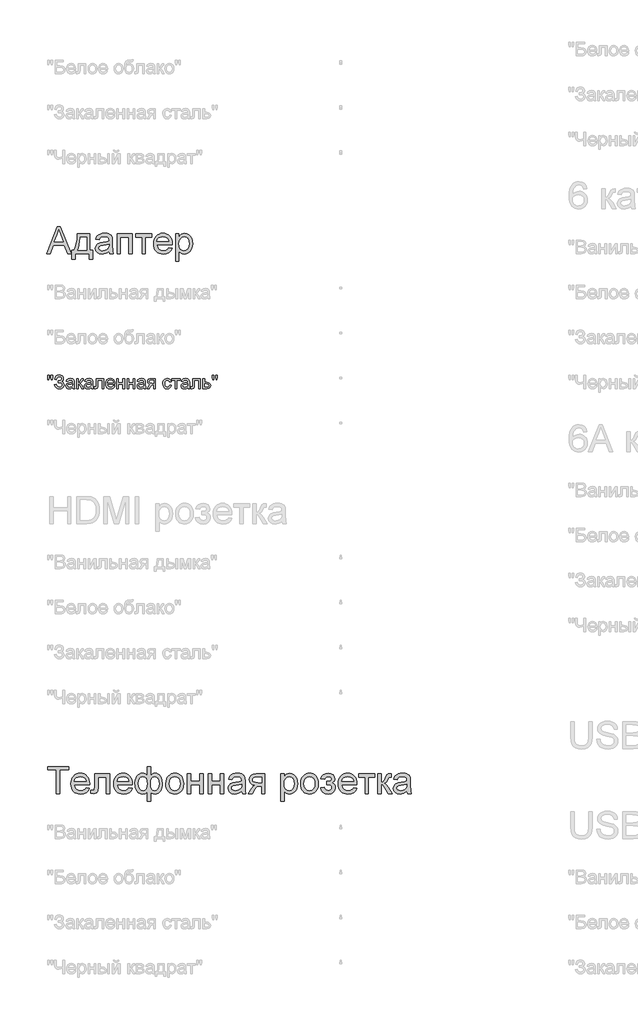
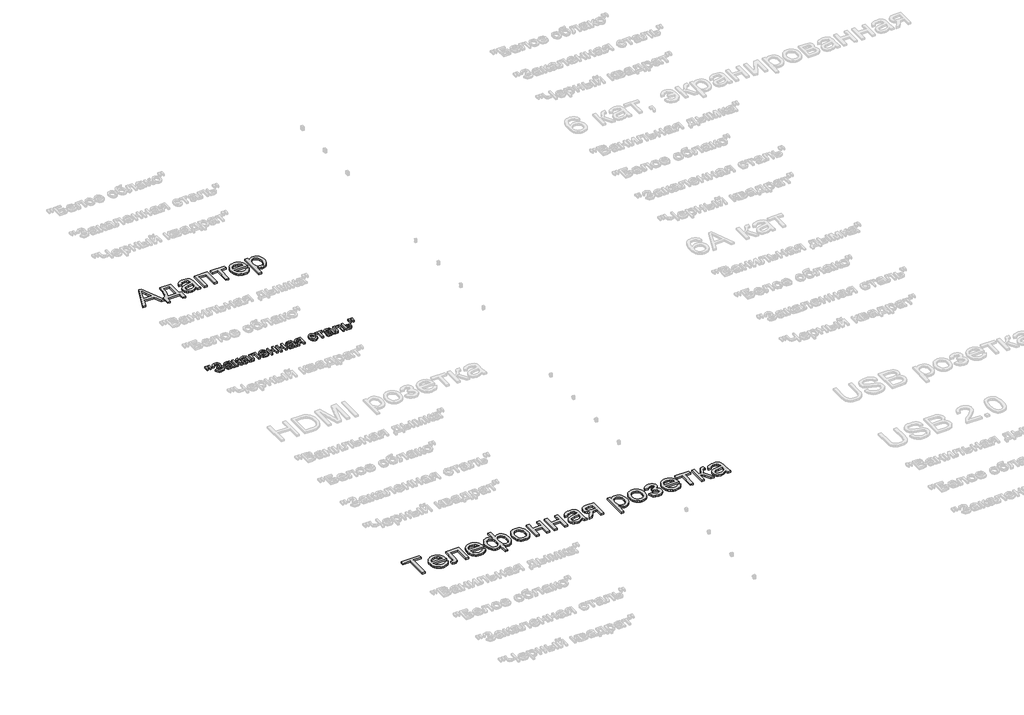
# One storey, part 58 of 168: 3 proxies.
"""IFC4 building model written with IfcOpenShell, lengths in millimetres."""

from ifc_helpers import new_model, si_unit, origin, origin_with_axes, place, context, project, spatial, polyline, outline, extrude, element, save

model = new_model("IFC4")

# Units and contexts
model_context = context("Model", 3, world=origin())
ifc_project = project(units=[si_unit("LENGTHUNIT", "METRE", prefix="MILLI")], contexts=[model_context])

# Site, building, storey
site = spatial("IfcSite", under=ifc_project)
building = spatial("IfcBuilding", under=site)
storey = spatial("IfcBuildingStorey", under=building, Name="Этаж 01", Elevation=0.0)

# Proxies
placement = place(None, origin())
element("IfcBuildingElementProxy", 1, Name="300 мм Arial 2", ObjectType="300 мм Arial 2", at=placement, inside=storey, context=model_context, shape_type="SweptSolid", body=[
    extrude(outline(polyline([(54373.6272543, -40566.8622977), (54493.9246668, -40265.4933673), (54526.0039767, -40265.4933673), (54646.3013892, -40566.8622977), (54606.4965573, -40566.8622977), (54571.9892261, -40472.684507), (54447.865841, -40472.684507), (54413.4320862, -40566.8622977), (54373.6272543, -40566.8622977)]), holes=[polyline([(54461.698204, -40435.0133907), (54558.2304395, -40435.0133907), (54531.0807483, -40360.9219568), (54509.9643218, -40303.1644836), (54491.20234, -40354.4472337), (54461.698204, -40435.0133907)])]), origin_with_axes(), (0.0, 0.0, 1.0), 20.0),
    extrude(outline(polyline([(54714.8010167, -40345.5444894), (54856.0677028, -40345.5444894), (54856.0677028, -40529.1911814), (54884.32104, -40529.1911814), (54884.32104, -40628.0778617), (54846.6499237, -40628.0778617), (54846.6499237, -40566.8622977), (54691.256569, -40566.8622977), (54691.256569, -40628.0778617), (54653.5854527, -40628.0778617), (54653.5854527, -40529.1911814), (54677.1299004, -40529.1911814), (54694.2456102, -40498.2615027), (54706.2293662, -40457.3438278), (54713.0811683, -40406.4381567), (54714.8010167, -40345.5444894)]), holes=[polyline([(54747.7632434, -40383.2156057), (54744.6730347, -40429.3388109), (54738.9340756, -40469.0424752), (54730.5463661, -40502.3265987), (54719.5099062, -40529.1911814), (54818.3965865, -40529.1911814), (54818.3965865, -40383.2156057), (54747.7632434, -40383.2156057)])]), origin_with_axes(), (0.0, 0.0, 1.0), 20.0),
    extrude(outline(polyline([(55067.967732, -40538.6089605), (55049.9691054, -40554.0416102), (55031.4370499, -40564.139971), (55011.9485012, -40569.7133832), (54991.080395, -40571.5711873), (54959.5988933, -40567.101421), (54936.3763424, -40553.6921223), (54922.0565357, -40533.3298539), (54917.2832668, -40508.0011785), (54919.0858886, -40492.3845878), (54924.4937539, -40478.2027369), (54932.8354782, -40466.0626311), (54943.4396767, -40456.5712756), (54969.8168157, -40444.2104405), (55002.4111605, -40438.5450578), (55040.9284054, -40432.5853695), (55067.7470028, -40425.5956116), (55067.967732, -40417.2079021), (55065.374164, -40400.3956949), (55057.5934598, -40389.3960233), (55040.1926414, -40381.229043), (55015.9492179, -40378.5067162), (54993.5084162, -40380.318535), (54977.8366432, -40385.7539915), (54967.1496713, -40395.806367), (54959.6632727, -40411.468943), (54921.9921564, -40406.7600534), (54928.5312588, -40386.1586617), (54938.2893287, -40369.9718539), (54952.1768741, -40357.5926248), (54971.1044027, -40348.413969), (54994.2533773, -40342.7301922), (55020.8052603, -40340.8355999), (55046.2718914, -40342.509463), (55066.4594159, -40347.5310522), (55081.6805334, -40355.0818302), (55092.2479437, -40364.3432594), (55099.2560957, -40375.7935865), (55103.7994384, -40389.9110581), (55105.6388483, -40422.8732848), (55105.6388483, -40469.741451), (55107.5518347, -40535.1876579), (55115.0566274, -40566.8622977), (55077.3855111, -40566.8622977), (55067.967732, -40538.6089605)]), holes=[polyline([(55067.967732, -40463.2667279), (55007.1936264, -40474.8182225), (54974.7832227, -40480.9250637), (54960.1047311, -40490.8578775), (54954.9543831, -40505.3524281), (54957.7594833, -40516.5544349), (54966.174784, -40525.7330907), (54980.016344, -40531.8583259), (54999.1002225, -40533.900071), (55019.3337323, -40531.6467937), (55037.2127972, -40524.8869621), (55051.7073479, -40514.9265571), (55061.7873145, -40503.0715598), (55066.2570808, -40490.8578775), (55067.7470028, -40473.9353058), (55067.967732, -40463.2667279)])]), origin_with_axes(), (0.0, 0.0, 1.0), 20.0),
    extrude(outline(polyline([(55157.4366333, -40345.5444894), (55326.9566566, -40345.5444894), (55326.9566566, -40566.8622977), (55289.2855403, -40566.8622977), (55289.2855403, -40383.2156057), (55195.1077496, -40383.2156057), (55195.1077496, -40566.8622977), (55157.4366333, -40566.8622977), (55157.4366333, -40345.5444894)])), origin_with_axes(), (0.0, 0.0, 1.0), 20.0),
    extrude(outline(polyline([(55364.6277729, -40345.5444894), (55543.5655754, -40345.5444894), (55543.5655754, -40383.2156057), (55472.9322323, -40383.2156057), (55472.9322323, -40566.8622977), (55435.261116, -40566.8622977), (55435.261116, -40383.2156057), (55364.6277729, -40383.2156057), (55364.6277729, -40345.5444894)])), origin_with_axes(), (0.0, 0.0, 1.0), 20.0),
    extrude(outline(polyline([(55731.4796985, -40500.9378442), (55768.4150509, -40505.6467337), (55755.1069197, -40533.4770067), (55733.8709315, -40554.2807335), (55705.1853329, -40567.2485738), (55669.5283705, -40571.5711873), (55646.1540683, -40569.7064854), (55625.3273488, -40564.1123798), (55607.0482122, -40554.7888705), (55591.3166584, -40541.7359575), (55578.6661163, -40525.3169242), (55569.6300148, -40505.8950541), (55564.2083539, -40483.4703472), (55562.4011336, -40458.0428036), (55564.226748, -40431.7530365), (55569.7035912, -40408.5810693), (55578.8316632, -40388.526902), (55591.610964, -40371.5905347), (55607.3011311, -40358.1352507), (55625.1618019, -40348.5243336), (55645.1929766, -40342.7577833), (55667.394655, -40340.8355999), (55688.8812628, -40342.7531848), (55708.3123299, -40348.5059395), (55725.6878564, -40358.093864), (55741.0078422, -40371.5169583), (55753.5135308, -40388.4165374), (55762.4461655, -40408.4339165), (55767.8057463, -40431.5690955), (55769.5922732, -40457.8220744), (55769.371544, -40467.9756174), (55600.0722499, -40467.9756174), (55606.5929582, -40496.1737724), (55621.7404994, -40516.9039228), (55643.6018869, -40529.6510339), (55670.2641345, -40533.900071), (55690.3137033, -40531.9319023), (55707.1994869, -40526.0273963), (55720.9214853, -40515.8186709), (55731.4796985, -40500.9378442)]), holes=[polyline([(55600.0722499, -40430.3045011), (55731.9211569, -40430.3045011), (55726.8259913, -40410.4020852), (55716.8379951, -40396.165052), (55694.87544, -40382.9213001), (55667.2475022, -40378.5067162), (55641.8544475, -40382.0291863), (55620.8575826, -40392.5965966), (55606.2618644, -40409.068513), (55600.0722499, -40430.3045011)])]), origin_with_axes(), (0.0, 0.0, 1.0), 20.0),
    extrude(outline(polyline([(55807.2633895, -40651.6223094), (55807.2633895, -40345.5444894), (55844.9345059, -40345.5444894), (55844.9345059, -40382.4798418), (55857.2217645, -40364.2604859), (55870.9805511, -40351.2466604), (55887.0202061, -40343.438365), (55906.1500698, -40340.8355999), (55931.625898, -40344.4776316), (55953.9011528, -40355.4037269), (55972.0377352, -40372.9516981), (55985.097546, -40396.4593576), (55992.9886148, -40424.2160541), (55995.6189711, -40454.5111364), (55992.648324, -40486.7284021), (55983.7363826, -40515.5427594), (55969.1682556, -40539.4918773), (55949.2290515, -40557.1134249), (55926.0065005, -40567.9567467), (55901.5883331, -40571.5711873), (55884.2702882, -40569.1523632), (55868.8100473, -40561.8958908), (55855.5754926, -40550.9422044), (55844.9345059, -40537.4317381), (55844.9345059, -40651.6223094), (55807.2633895, -40651.6223094)]), holes=[polyline([(55844.9345059, -40457.9692272), (55849.0087989, -40491.7407943), (55861.2316782, -40515.3588184), (55879.2670931, -40529.2647578), (55900.7789927, -40533.900071), (55922.6403803, -40529.0992109), (55941.1356476, -40514.6966308), (55953.744803, -40490.214084), (55957.9478548, -40455.173324), (55953.8459705, -40421.5856978), (55941.5403178, -40397.63658), (55923.5324941, -40383.2891821), (55902.3240971, -40378.5067162), (55881.0329266, -40383.5926848), (55862.3353242, -40398.8505905), (55849.2847104, -40423.8021869), (55844.9345059, -40457.9692272)])]), origin_with_axes(), (0.0, 0.0, 1.0), 20.0),
])
element("IfcBuildingElementProxy", 2, Name="300 мм Arial 2", ObjectType="300 мм Arial 2", at=placement, inside=storey, context=model_context, shape_type="SweptSolid", body=[
    extrude(outline(polyline([(54484.0654293, -46566.8622977), (54484.0654293, -46303.1644836), (54385.178749, -46303.1644836), (54385.178749, -46265.4933673), (54620.6232259, -46265.4933673), (54620.6232259, -46303.1644836), (54521.7365456, -46303.1644836), (54521.7365456, -46566.8622977), (54484.0654293, -46566.8622977)])), origin_with_axes(), (0.0, 0.0, 1.0), 20.0),
    extrude(outline(polyline([(54813.2462386, -46500.9378442), (54850.1815909, -46505.6467337), (54836.8734597, -46533.4770067), (54815.6374715, -46554.2807335), (54786.951873, -46567.2485738), (54751.2949106, -46571.5711873), (54727.9206083, -46569.7064854), (54707.0938889, -46564.1123798), (54688.8147522, -46554.7888705), (54673.0831984, -46541.7359575), (54660.4326563, -46525.3169242), (54651.3965548, -46505.8950541), (54645.9748939, -46483.4703472), (54644.1676736, -46458.0428036), (54645.993288, -46431.7530365), (54651.4701312, -46408.5810693), (54660.5982032, -46388.526902), (54673.377504, -46371.5905347), (54689.0676711, -46358.1352507), (54706.928342, -46348.5243336), (54726.9595166, -46342.7577833), (54749.161195, -46340.8355999), (54770.6478028, -46342.7531848), (54790.0788699, -46348.5059395), (54807.4543964, -46358.093864), (54822.7743823, -46371.5169583), (54835.2800708, -46388.4165374), (54844.2127055, -46408.4339165), (54849.5722863, -46431.5690955), (54851.3588133, -46457.8220744), (54851.1380841, -46467.9756174), (54681.8387899, -46467.9756174), (54688.3594983, -46496.1737724), (54703.5070394, -46516.9039228), (54725.368427, -46529.6510339), (54752.0306746, -46533.900071), (54772.0802433, -46531.9319023), (54788.9660269, -46526.0273963), (54802.6880253, -46515.8186709), (54813.2462386, -46500.9378442)]), holes=[polyline([(54681.8387899, -46430.3045011), (54813.687697, -46430.3045011), (54808.5925313, -46410.4020852), (54798.6045352, -46396.165052), (54776.6419801, -46382.9213001), (54749.0140422, -46378.5067162), (54723.6209875, -46382.0291863), (54702.6241226, -46392.5965966), (54688.0284045, -46409.068513), (54681.8387899, -46430.3045011)])]), origin_with_axes(), (0.0, 0.0, 1.0), 20.0),
    extrude(outline(polyline([(54907.8654877, -46345.5444894), (55077.3855111, -46345.5444894), (55077.3855111, -46566.6415685), (55039.7143948, -46566.6415685), (55039.7143948, -46383.2156057), (54945.536604, -46383.2156057), (54945.536604, -46488.7977384), (54942.9982183, -46537.5053145), (54938.2433435, -46548.5325773), (54929.0554907, -46558.069918), (54915.112763, -46564.6642028), (54896.0932639, -46566.8622977), (54865.4854819, -46564.9493114), (54865.4854819, -46529.1911814), (54882.3344773, -46529.1911814), (54899.3674136, -46526.8735249), (54906.1732306, -46519.515885), (54907.8654877, -46486.6640228), (54907.8654877, -46345.5444894)])), origin_with_axes(), (0.0, 0.0, 1.0), 20.0),
    extrude(outline(polyline([(55288.8440819, -46500.9378442), (55325.7794343, -46505.6467337), (55312.4713031, -46533.4770067), (55291.2353149, -46554.2807335), (55262.5497163, -46567.2485738), (55226.892754, -46571.5711873), (55203.5184517, -46569.7064854), (55182.6917322, -46564.1123798), (55164.4125956, -46554.7888705), (55148.6810418, -46541.7359575), (55136.0304997, -46525.3169242), (55126.9943982, -46505.8950541), (55121.5727373, -46483.4703472), (55119.765517, -46458.0428036), (55121.5911314, -46431.7530365), (55127.0679746, -46408.5810693), (55136.1960466, -46388.526902), (55148.9753474, -46371.5905347), (55164.6655145, -46358.1352507), (55182.5261853, -46348.5243336), (55202.55736, -46342.7577833), (55224.7590384, -46340.8355999), (55246.2456462, -46342.7531848), (55265.6767133, -46348.5059395), (55283.0522398, -46358.093864), (55298.3722256, -46371.5169583), (55310.8779142, -46388.4165374), (55319.8105489, -46408.4339165), (55325.1701297, -46431.5690955), (55326.9566566, -46457.8220744), (55326.7359274, -46467.9756174), (55157.4366333, -46467.9756174), (55163.9573416, -46496.1737724), (55179.1048828, -46516.9039228), (55200.9662703, -46529.6510339), (55227.6285179, -46533.900071), (55247.6780867, -46531.9319023), (55264.5638703, -46526.0273963), (55278.2858687, -46515.8186709), (55288.8440819, -46500.9378442)]), holes=[polyline([(55157.4366333, -46430.3045011), (55289.2855403, -46430.3045011), (55284.1903747, -46410.4020852), (55274.2023785, -46396.165052), (55252.2398234, -46382.9213001), (55224.6118856, -46378.5067162), (55199.2188309, -46382.0291863), (55178.221966, -46392.5965966), (55163.6262478, -46409.068513), (55157.4366333, -46430.3045011)])]), origin_with_axes(), (0.0, 0.0, 1.0), 20.0),
    extrude(outline(polyline([(55491.7677905, -46265.4933673), (55529.4389068, -46265.4933673), (55529.4389068, -46366.8080688), (55540.8708398, -46355.3761358), (55553.3880247, -46347.2735348), (55566.9352791, -46342.4450836), (55581.4574209, -46340.8355999), (55598.8973267, -46342.8819435), (55614.4288447, -46349.0209743), (55628.0519749, -46359.2526923), (55639.7667171, -46373.5770975), (55649.182197, -46391.005507), (55655.9075397, -46410.549238), (55661.2878139, -46455.9826644), (55659.8392785, -46480.6376559), (55655.4936724, -46502.8048453), (55648.2509957, -46522.4842328), (55638.1112482, -46539.6758183), (55625.819391, -46553.6300422), (55612.1203852, -46563.597345), (55597.0142308, -46569.5777267), (55580.5009277, -46571.5711873), (55557.4715148, -46567.8923673), (55544.6140391, -46561.0313681), (55529.4389068, -46547.8060104), (55529.4389068, -46651.6223094), (55491.7677905, -46651.6223094), (55491.7677905, -46547.8060104), (55467.708308, -46565.611499), (55439.2342416, -46571.5711873), (55422.9186751, -46569.6673979), (55407.6699664, -46563.95603), (55393.4881155, -46554.4370833), (55380.3731223, -46541.1105581), (55369.3642536, -46524.2385701), (55361.500776, -46504.0832353), (55356.7826894, -46480.6445536), (55355.2099939, -46453.9225252), (55360.9029677, -46409.7582917), (55368.0191851, -46390.5870412), (55377.9818894, -46373.3563683), (55390.3496222, -46359.1285321), (55404.6809252, -46348.965792), (55420.9757983, -46342.8681479), (55439.2342416, -46340.8355999), (55454.5841178, -46342.4450836), (55468.4072838, -46347.2735348), (55480.7773159, -46355.3761358), (55491.7677905, -46366.8080688), (55491.7677905, -46265.4933673)]), holes=[polyline([(55392.8811102, -46453.1131848), (55396.6519006, -46490.0669312), (55407.964272, -46514.9909364), (55424.8684497, -46529.1727873), (55445.4146591, -46533.900071), (55465.859701, -46529.2003785), (55480.4002368, -46515.101301), (55489.091449, -46491.6028386), (55491.9885197, -46458.7049912), (55488.9442962, -46423.6182459), (55479.8116256, -46398.5562849), (55464.5353258, -46383.5191084), (55443.0602143, -46378.5067162), (55422.900281, -46383.3995467), (55406.860626, -46398.0780383), (55396.3759891, -46421.622486), (55392.8811102, -46453.1131848)]), polyline([(55529.2181776, -46456.8655812), (55532.3543716, -46495.005747), (55541.7629536, -46518.1915098), (55555.8988193, -46529.9729307), (55573.2168642, -46533.900071), (55592.5766542, -46529.0716198), (55608.8646295, -46514.5862662), (55619.9286806, -46489.9289755), (55623.6166976, -46454.5847128), (55620.2137891, -46421.070663), (55610.0050637, -46397.3422744), (55594.4620494, -46383.2156057), (55575.0562742, -46378.5067162), (55555.0710848, -46383.4087438), (55540.732884, -46398.1148265), (55532.0968542, -46422.6065704), (55529.2181776, -46456.8655812)])]), origin_with_axes(), (0.0, 0.0, 1.0), 20.0),
    extrude(outline(polyline([(55698.9589302, -46456.2033936), (55700.9960767, -46427.5407876), (55707.1075164, -46402.8421102), (55717.2932491, -46382.1073612), (55731.5532749, -46365.3365408), (55745.9098698, -46354.6173791), (55761.7563867, -46346.9608351), (55779.0928258, -46342.3669087), (55797.9191869, -46340.8355999), (55818.7022203, -46342.7003018), (55837.4940925, -46348.2944073), (55854.2948034, -46357.6179167), (55869.1043529, -46370.6708297), (55881.1915757, -46387.0116881), (55889.8253063, -46406.1990334), (55895.0055447, -46428.2328656), (55896.7322908, -46453.1131848), (55893.6788702, -46491.1705772), (55884.5186085, -46520.1412843), (55869.5182202, -46541.837125), (55848.9444196, -46558.069918), (55824.5078581, -46568.19587), (55797.9191869, -46571.5711873), (55776.8326508, -46569.7133832), (55757.8660346, -46564.139971), (55741.0193385, -46554.8509506), (55726.2925624, -46541.8463221), (55714.3340983, -46525.3468146), (55705.7923382, -46505.5731573), (55700.6672822, -46482.5253503), (55698.9589302, -46456.2033936)]), holes=[polyline([(55736.6300465, -46456.1298172), (55740.9894481, -46490.2232811), (55754.067653, -46514.5126898), (55773.7493398, -46529.0532257), (55797.9191869, -46533.900071), (55821.9786694, -46529.0256345), (55841.6235679, -46514.4023252), (55854.7017728, -46489.7910197), (55859.0611745, -46454.9525948), (55854.6741817, -46421.8524123), (55841.5132033, -46397.8940973), (55821.8407136, -46383.3535615), (55797.9191869, -46378.5067162), (55773.7493398, -46383.3351674), (55754.067653, -46397.820521), (55740.9894481, -46422.0547474), (55736.6300465, -46456.1298172)])]), origin_with_axes(), (0.0, 0.0, 1.0), 20.0),
    extrude(outline(polyline([(55939.1122966, -46345.5444894), (55976.7834129, -46345.5444894), (55976.7834129, -46430.3045011), (56075.6700932, -46430.3045011), (56075.6700932, -46345.5444894), (56113.3412095, -46345.5444894), (56113.3412095, -46566.8622977), (56075.6700932, -46566.8622977), (56075.6700932, -46467.9756174), (55976.7834129, -46467.9756174), (55976.7834129, -46566.8622977), (55939.1122966, -46566.8622977), (55939.1122966, -46345.5444894)])), origin_with_axes(), (0.0, 0.0, 1.0), 20.0),
    extrude(outline(polyline([(56169.847884, -46345.5444894), (56207.5190003, -46345.5444894), (56207.5190003, -46430.3045011), (56306.4056806, -46430.3045011), (56306.4056806, -46345.5444894), (56344.0767969, -46345.5444894), (56344.0767969, -46566.8622977), (56306.4056806, -46566.8622977), (56306.4056806, -46467.9756174), (56207.5190003, -46467.9756174), (56207.5190003, -46566.8622977), (56169.847884, -46566.8622977), (56169.847884, -46345.5444894)])), origin_with_axes(), (0.0, 0.0, 1.0), 20.0),
    extrude(outline(polyline([(56541.8501575, -46538.6089605), (56523.8515309, -46554.0416102), (56505.3194754, -46564.139971), (56485.8309267, -46569.7133832), (56464.9628205, -46571.5711873), (56433.4813188, -46567.101421), (56410.2587678, -46553.6921223), (56395.9389612, -46533.3298539), (56391.1656923, -46508.0011785), (56392.9683141, -46492.3845878), (56398.3761794, -46478.2027369), (56406.7179036, -46466.0626311), (56417.3221021, -46456.5712756), (56443.6992412, -46444.2104405), (56476.293586, -46438.5450578), (56514.8108309, -46432.5853695), (56541.6294283, -46425.5956116), (56541.8501575, -46417.2079021), (56539.2565894, -46400.3956949), (56531.4758852, -46389.3960233), (56514.0750669, -46381.229043), (56489.8316434, -46378.5067162), (56467.3908417, -46380.318535), (56451.7190687, -46385.7539915), (56441.0320967, -46395.806367), (56433.5456981, -46411.468943), (56395.8745818, -46406.7600534), (56402.4136843, -46386.1586617), (56412.1717542, -46369.9718539), (56426.0592995, -46357.5926248), (56444.9868282, -46348.413969), (56468.1358027, -46342.7301922), (56494.6876857, -46340.8355999), (56520.1543168, -46342.509463), (56540.3418413, -46347.5310522), (56555.5629589, -46355.0818302), (56566.1303692, -46364.3432594), (56573.1385212, -46375.7935865), (56577.6818638, -46389.9110581), (56579.5212738, -46422.8732848), (56579.5212738, -46469.741451), (56581.4342602, -46535.1876579), (56588.9390529, -46566.8622977), (56551.2679366, -46566.8622977), (56541.8501575, -46538.6089605)]), holes=[polyline([(56541.8501575, -46463.2667279), (56481.0760519, -46474.8182225), (56448.6656481, -46480.9250637), (56433.9871565, -46490.8578775), (56428.8368086, -46505.3524281), (56431.6419088, -46516.5544349), (56440.0572094, -46525.7330907), (56453.8987695, -46531.8583259), (56472.982648, -46533.900071), (56493.2161578, -46531.6467937), (56511.0952227, -46524.8869621), (56525.5897733, -46514.9265571), (56535.66974, -46503.0715598), (56540.1395062, -46490.8578775), (56541.6294283, -46473.9353058), (56541.8501575, -46463.2667279)])]), origin_with_axes(), (0.0, 0.0, 1.0), 20.0),
    extrude(outline(polyline([(56800.8390821, -46345.5444894), (56800.8390821, -46566.8622977), (56763.1679658, -46566.8622977), (56763.1679658, -46482.102286), (56742.6401505, -46482.102286), (56714.6811188, -46486.884752), (56703.5159003, -46497.3142065), (56688.4143444, -46519.0376384), (56658.3951736, -46566.8622977), (56614.8379454, -46566.8622977), (56652.6562145, -46506.3824977), (56669.358057, -46484.67746), (56684.7355244, -46475.0389517), (56658.9837848, -46467.1478829), (56640.8839906, -46452.1566916), (56630.1786246, -46432.2174875), (56626.6101692, -46409.4823802), (56631.4846056, -46383.6938523), (56646.1079149, -46363.2764016), (56669.9650623, -46349.9774675), (56702.541013, -46345.5444894), (56800.8390821, -46345.5444894)]), holes=[polyline([(56763.1679658, -46383.2156057), (56713.5038965, -46383.2156057), (56687.8533243, -46385.3953066), (56673.2943944, -46391.934409), (56666.5345627, -46401.3981734), (56664.2812855, -46412.3518598), (56667.6014205, -46426.7084546), (56677.5618255, -46436.6688596), (56695.9651223, -46442.4905922), (56724.6139327, -46444.4311697), (56763.1679658, -46444.4311697), (56763.1679658, -46383.2156057)])]), origin_with_axes(), (0.0, 0.0, 1.0), 20.0),
    extrude(outline(polyline([(56975.067995, -46651.6223094), (56975.067995, -46345.5444894), (57012.7391113, -46345.5444894), (57012.7391113, -46382.4798418), (57025.02637, -46364.2604859), (57038.7851566, -46351.2466604), (57054.8248116, -46343.438365), (57073.9546753, -46340.8355999), (57099.4305035, -46344.4776316), (57121.7057583, -46355.4037269), (57139.8423407, -46372.9516981), (57152.9021515, -46396.4593576), (57160.7932203, -46424.2160541), (57163.4235766, -46454.5111364), (57160.4529295, -46486.7284021), (57151.5409881, -46515.5427594), (57136.9728611, -46539.4918773), (57117.033657, -46557.1134249), (57093.811106, -46567.9567467), (57069.3929386, -46571.5711873), (57052.0748937, -46569.1523632), (57036.6146528, -46561.8958908), (57023.380098, -46550.9422044), (57012.7391113, -46537.4317381), (57012.7391113, -46651.6223094), (56975.067995, -46651.6223094)]), holes=[polyline([(57012.7391113, -46457.9692272), (57016.8134044, -46491.7407943), (57029.0362837, -46515.3588184), (57047.0716985, -46529.2647578), (57068.5835982, -46533.900071), (57090.4449858, -46529.0992109), (57108.9402531, -46514.6966308), (57121.5494085, -46490.214084), (57125.7524603, -46455.173324), (57121.650576, -46421.5856978), (57109.3449233, -46397.63658), (57091.3370996, -46383.2891821), (57070.1287026, -46378.5067162), (57048.8375321, -46383.5926848), (57030.1399297, -46398.8505905), (57017.0893159, -46423.8021869), (57012.7391113, -46457.9692272)])]), origin_with_axes(), (0.0, 0.0, 1.0), 20.0),
    extrude(outline(polyline([(57196.3858033, -46456.2033936), (57198.4229499, -46427.5407876), (57204.5343895, -46402.8421102), (57214.7201223, -46382.1073612), (57228.9801481, -46365.3365408), (57243.336743, -46354.6173791), (57259.1832599, -46346.9608351), (57276.5196989, -46342.3669087), (57295.34606, -46340.8355999), (57316.1290935, -46342.7003018), (57334.9209657, -46348.2944073), (57351.7216765, -46357.6179167), (57366.5312261, -46370.6708297), (57378.6184489, -46387.0116881), (57387.2521795, -46406.1990334), (57392.4324178, -46428.2328656), (57394.1591639, -46453.1131848), (57391.1057434, -46491.1705772), (57381.9454817, -46520.1412843), (57366.9450933, -46541.837125), (57346.3712928, -46558.069918), (57321.9347312, -46568.19587), (57295.34606, -46571.5711873), (57274.2595239, -46569.7133832), (57255.2929078, -46564.139971), (57238.4462117, -46554.8509506), (57223.7194356, -46541.8463221), (57211.7609715, -46525.3468146), (57203.2192114, -46505.5731573), (57198.0941553, -46482.5253503), (57196.3858033, -46456.2033936)]), holes=[polyline([(57234.0569196, -46456.1298172), (57238.4163213, -46490.2232811), (57251.4945262, -46514.5126898), (57271.176213, -46529.0532257), (57295.34606, -46533.900071), (57319.4055425, -46529.0256345), (57339.0504411, -46514.4023252), (57352.128646, -46489.7910197), (57356.4880476, -46454.9525948), (57352.1010548, -46421.8524123), (57338.9400765, -46397.8940973), (57319.2675868, -46383.3535615), (57295.34606, -46378.5067162), (57271.176213, -46383.3351674), (57251.4945262, -46397.820521), (57238.4163213, -46422.0547474), (57234.0569196, -46456.1298172)])]), origin_with_axes(), (0.0, 0.0, 1.0), 20.0),
    extrude(outline(polyline([(57488.3369547, -46467.9756174), (57488.3369547, -46430.3045011), (57518.0618199, -46428.8329731), (57533.0714053, -46420.9970866), (57538.368906, -46413.6486438), (57540.1347396, -46404.6263379), (57537.7710978, -46393.9117748), (57530.6801723, -46385.6068387), (57519.8552446, -46380.2817468), (57506.2895961, -46378.5067162), (57492.5767947, -46380.2725498), (57481.0896794, -46385.5700505), (57471.8282502, -46394.3992184), (57464.792507, -46406.7600534), (57422.4125012, -46402.0511639), (57433.6512961, -46375.2693546), (57450.7394148, -46356.1394909), (57473.6768572, -46344.6615726), (57502.4636233, -46340.8355999), (57533.9543221, -46345.4985042), (57557.7930754, -46359.4872171), (57572.8026608, -46379.950653), (57577.8058559, -46404.0377267), (57576.0262268, -46416.3985617), (57570.6873393, -46427.4350216), (57561.7891936, -46437.1471062), (57549.3317895, -46445.5348157), (57563.8723254, -46456.0010585), (57574.2374006, -46469.005687), (57580.4454092, -46484.5854895), (57582.5147455, -46502.7772542), (57577.26323, -46530.5063596), (57561.5086835, -46552.4781117), (57536.3179639, -46566.7979184), (57502.7579289, -46571.5711873), (57469.9336579, -46567.1566033), (57444.8165147, -46553.9128515), (57427.4064993, -46531.8399318), (57417.7036116, -46500.9378442), (57460.0836175, -46496.2289547), (57466.4295819, -46512.1582451), (57477.0797657, -46524.0408335), (57490.8017641, -46531.4352616), (57506.3631725, -46533.900071), (57521.5199107, -46531.5364291), (57533.8807457, -46524.4455037), (57542.1029083, -46513.6757583), (57544.8436292, -46500.2756566), (57543.1421749, -46489.662261), (57538.0378123, -46480.4836053), (57523.5432616, -46469.8886038), (57495.6945946, -46467.7548882), (57488.3369547, -46467.9756174)])), origin_with_axes(), (0.0, 0.0, 1.0), 20.0),
    extrude(outline(polyline([(57784.5555372, -46500.9378442), (57821.4908895, -46505.6467337), (57808.1827584, -46533.4770067), (57786.9467702, -46554.2807335), (57758.2611716, -46567.2485738), (57722.6042092, -46571.5711873), (57699.229907, -46569.7064854), (57678.4031875, -46564.1123798), (57660.1240509, -46554.7888705), (57644.3924971, -46541.7359575), (57631.7419549, -46525.3169242), (57622.7058534, -46505.8950541), (57617.2841925, -46483.4703472), (57615.4769722, -46458.0428036), (57617.3025866, -46431.7530365), (57622.7794298, -46408.5810693), (57631.9075018, -46388.526902), (57644.6868027, -46371.5905347), (57660.3769697, -46358.1352507), (57678.2376406, -46348.5243336), (57698.2688153, -46342.7577833), (57720.4704937, -46340.8355999), (57741.9571014, -46342.7531848), (57761.3881686, -46348.5059395), (57778.7636951, -46358.093864), (57794.0836809, -46371.5169583), (57806.5893695, -46388.4165374), (57815.5220042, -46408.4339165), (57820.881585, -46431.5690955), (57822.6681119, -46457.8220744), (57822.4473827, -46467.9756174), (57653.1480885, -46467.9756174), (57659.6687969, -46496.1737724), (57674.8163381, -46516.9039228), (57696.6777256, -46529.6510339), (57723.3399732, -46533.900071), (57743.389542, -46531.9319023), (57760.2753255, -46526.0273963), (57773.997324, -46515.8186709), (57784.5555372, -46500.9378442)]), holes=[polyline([(57653.1480885, -46430.3045011), (57784.9969956, -46430.3045011), (57779.90183, -46410.4020852), (57769.9138338, -46396.165052), (57747.9512787, -46382.9213001), (57720.3233409, -46378.5067162), (57694.9302861, -46382.0291863), (57673.9334213, -46392.5965966), (57659.3377031, -46409.068513), (57653.1480885, -46430.3045011)])]), origin_with_axes(), (0.0, 0.0, 1.0), 20.0),
    extrude(outline(polyline([(57841.5036701, -46345.5444894), (58020.4414725, -46345.5444894), (58020.4414725, -46383.2156057), (57949.8081295, -46383.2156057), (57949.8081295, -46566.8622977), (57912.1370131, -46566.8622977), (57912.1370131, -46383.2156057), (57841.5036701, -46383.2156057), (57841.5036701, -46345.5444894)])), origin_with_axes(), (0.0, 0.0, 1.0), 20.0),
    extrude(outline(polyline([(58053.4036993, -46345.5444894), (58091.0748156, -46345.5444894), (58091.0748156, -46439.7222802), (58106.3971007, -46438.030023), (58116.3115205, -46432.9532515), (58125.0855061, -46419.7094997), (58136.9864886, -46393.5163016), (58154.1665778, -46359.4872171), (58169.323316, -46348.413969), (58196.8776774, -46345.5444894), (58204.0881645, -46345.5444894), (58204.0881645, -46383.4363349), (58193.9346215, -46383.2156057), (58175.5405217, -46387.1887313), (58162.5910755, -46411.9839778), (58147.3975491, -46438.8025752), (58126.0971815, -46451.9359624), (58138.0349523, -46457.2380617), (58149.8623584, -46466.5960599), (58173.1860769, -46497.4797534), (58213.5059436, -46566.8622977), (58170.6844794, -46566.8622977), (58131.1739531, -46498.9512814), (58111.3083253, -46470.2196976), (58102.019305, -46465.0049703), (58091.0748156, -46463.2667279), (58091.0748156, -46566.8622977), (58053.4036993, -46566.8622977), (58053.4036993, -46345.5444894)])), origin_with_axes(), (0.0, 0.0, 1.0), 20.0),
    extrude(outline(polyline([(58378.3170774, -46538.6089605), (58360.3184508, -46554.0416102), (58341.7863953, -46564.139971), (58322.2978466, -46569.7133832), (58301.4297404, -46571.5711873), (58269.9482387, -46567.101421), (58246.7256878, -46553.6921223), (58232.4058811, -46533.3298539), (58227.6326122, -46508.0011785), (58229.435234, -46492.3845878), (58234.8430993, -46478.2027369), (58243.1848236, -46466.0626311), (58253.7890221, -46456.5712756), (58280.1661611, -46444.2104405), (58312.7605059, -46438.5450578), (58351.2777508, -46432.5853695), (58378.0963482, -46425.5956116), (58378.3170774, -46417.2079021), (58375.7235094, -46400.3956949), (58367.9428052, -46389.3960233), (58350.5419868, -46381.229043), (58326.2985633, -46378.5067162), (58303.8577616, -46380.318535), (58288.1859886, -46385.7539915), (58277.4990167, -46395.806367), (58270.0126181, -46411.468943), (58232.3415017, -46406.7600534), (58238.8806042, -46386.1586617), (58248.6386741, -46369.9718539), (58262.5262195, -46357.5926248), (58281.4537481, -46348.413969), (58304.6027227, -46342.7301922), (58331.1546057, -46340.8355999), (58356.6212368, -46342.509463), (58376.8087613, -46347.5310522), (58392.0298788, -46355.0818302), (58402.5972891, -46364.3432594), (58409.6054411, -46375.7935865), (58414.1487838, -46389.9110581), (58415.9881937, -46422.8732848), (58415.9881937, -46469.741451), (58417.9011801, -46535.1876579), (58425.4059728, -46566.8622977), (58387.7348565, -46566.8622977), (58378.3170774, -46538.6089605)]), holes=[polyline([(58378.3170774, -46463.2667279), (58317.5429718, -46474.8182225), (58285.1325681, -46480.9250637), (58270.4540764, -46490.8578775), (58265.3037285, -46505.3524281), (58268.1088287, -46516.5544349), (58276.5241294, -46525.7330907), (58290.3656894, -46531.8583259), (58309.4495679, -46533.900071), (58329.6830777, -46531.6467937), (58347.5621426, -46524.8869621), (58362.0566932, -46514.9265571), (58372.1366599, -46503.0715598), (58376.6064262, -46490.8578775), (58378.0963482, -46473.9353058), (58378.3170774, -46463.2667279)])]), origin_with_axes(), (0.0, 0.0, 1.0), 20.0),
])
element("IfcBuildingElementProxy", 3, Name="150", ObjectType="150", at=placement, inside=storey, context=model_context, shape_type="SweptSolid", body=[
    extrude(outline(polyline([(54389.7772739, -41970.3300622), (54385.178749, -41941.2305964), (54385.178749, -41916.1778325), (54404.0143071, -41916.1778325), (54404.0143071, -41941.2305964), (54399.8940288, -41970.3300622), (54389.7772739, -41970.3300622)])), origin_with_axes(), (0.0, 0.0, 1.0), 20.0),
    extrude(outline(polyline([(54427.3380256, -41970.3300622), (54422.8498653, -41941.2305964), (54422.8498653, -41916.1778325), (54441.6854234, -41916.1778325), (54441.6854234, -41941.2305964), (54437.2708395, -41970.3300622), (54427.3380256, -41970.3300622)])), origin_with_axes(), (0.0, 0.0, 1.0), 20.0),
    extrude(outline(polyline([(54460.5209816, -42024.4822919), (54479.3565398, -42019.7734024), (54490.9264285, -42040.172459), (54501.8571223, -42047.829003), (54515.8504337, -42050.3811843), (54530.0276861, -42048.4635995), (54540.8480152, -42042.7108448), (54547.7044159, -42034.2449603), (54549.9898828, -42024.1879863), (54547.4928838, -42013.6527657), (54540.0018867, -42005.517975), (54528.2066702, -42000.3170433), (54512.7970131, -41998.5833994), (54502.9009874, -41998.5833994), (54502.9009874, -41979.7478413), (54524.2197491, -41978.221131), (54537.2611658, -41970.4220327), (54542.9265485, -41956.1666054), (54541.0411533, -41947.2960508), (54535.3849676, -41939.6670979), (54526.5098145, -41934.4109839), (54514.9675169, -41932.6589459), (54495.7456826, -41938.0484171), (54484.746011, -41952.3406326), (54481.7109845, -41965.6211727), (54462.8754264, -41960.9122831), (54468.7270494, -41940.3108914), (54479.3289486, -41925.5956116), (54494.6811241, -41916.7664437), (54514.7835759, -41913.8233877), (54534.1755556, -41916.8814068), (54549.0885719, -41926.0554641), (54558.593723, -41939.3222085), (54561.7621067, -41954.6582892), (54556.8324879, -41973.3007093), (54542.0436317, -41987.2158458), (54552.5190715, -41992.0396984), (54561.1367073, -42000.1836861), (54566.9032576, -42010.948833), (54568.825441, -42023.6361633), (54565.137424, -42041.4738415), (54554.073373, -42056.1385376), (54536.9208749, -42065.9471913), (54514.9675169, -42069.2167425), (54495.8652443, -42066.4208393), (54480.4233975, -42058.0331298), (54468.6419766, -42044.053614), (54460.5209816, -42024.4822919)])), origin_with_axes(), (0.0, 0.0, 1.0), 20.0),
    extrude(outline(polyline([(54663.0032317, -42052.7356291), (54644.7378907, -42065.5011344), (54624.5595633, -42069.2167425), (54608.8188124, -42066.9818594), (54597.2075369, -42060.27721), (54590.0476336, -42050.0960758), (54587.6609991, -42037.4317381), (54591.2662427, -42022.5325173), (54600.7392041, -42011.7167867), (54613.9277736, -42005.5363691), (54630.224946, -42002.7036778), (54662.8928671, -41996.2289547), (54663.0032317, -41992.0350999), (54661.7064477, -41983.6289963), (54657.8160956, -41978.1291605), (54649.1156864, -41974.0456704), (54636.9939747, -41972.684507), (54617.9376873, -41976.3081446), (54608.8510021, -41989.1656204), (54590.0154439, -41986.8111756), (54598.1640301, -41968.4170758), (54614.5715671, -41957.6381334), (54639.4219959, -41953.8489488), (54662.2490737, -41957.196675), (54675.1433376, -41965.6027786), (54680.9190849, -41978.3866779), (54681.8387899, -41994.8677913), (54681.8387899, -42018.3018744), (54682.7952831, -42051.0249778), (54686.5476794, -42066.8622977), (54667.7121213, -42066.8622977), (54663.0032317, -42052.7356291)]), holes=[polyline([(54663.0032317, -42015.0645128), (54632.6161789, -42020.8402601), (54616.4109771, -42023.8936807), (54609.0717313, -42028.8600876), (54606.4965573, -42036.1073629), (54612.1067577, -42046.2976942), (54628.569477, -42050.3811843), (54647.6257643, -42045.8746299), (54659.913023, -42034.9669288), (54662.8928671, -42020.3988017), (54663.0032317, -42015.0645128)])]), origin_with_axes(), (0.0, 0.0, 1.0), 20.0),
    extrude(outline(polyline([(54707.7376824, -41956.2033936), (54726.5732405, -41956.2033936), (54726.5732405, -42003.292289), (54739.1915929, -41999.9077746), (54749.529077, -41980.1892997), (54758.1191216, -41963.1747574), (54765.6974907, -41957.6381334), (54779.4746714, -41956.2033936), (54783.079915, -41956.2033936), (54783.079915, -41975.1493163), (54778.0031434, -41975.0389517), (54768.8060936, -41977.0255145), (54762.3313704, -41989.4231377), (54754.7346072, -42002.8324365), (54744.0844235, -42009.3991301), (54755.9670119, -42016.7291788), (54767.6288712, -42032.1710256), (54787.7888045, -42066.8622977), (54766.3780724, -42066.8622977), (54746.6228092, -42032.9067896), (54736.6899954, -42018.5409977), (54726.5732405, -42015.0645128), (54726.5732405, -42066.8622977), (54707.7376824, -42066.8622977), (54707.7376824, -41956.2033936)])), origin_with_axes(), (0.0, 0.0, 1.0), 20.0),
    extrude(outline(polyline([(54870.1943714, -42052.7356291), (54851.9290304, -42065.5011344), (54831.7507029, -42069.2167425), (54816.0099521, -42066.9818594), (54804.3986766, -42060.27721), (54797.2387733, -42050.0960758), (54794.8521388, -42037.4317381), (54798.4573824, -42022.5325173), (54807.9303437, -42011.7167867), (54821.1189133, -42005.5363691), (54837.4160857, -42002.7036778), (54870.0840068, -41996.2289547), (54870.1943714, -41992.0350999), (54868.8975874, -41983.6289963), (54865.0072353, -41978.1291605), (54856.3068261, -41974.0456704), (54844.1851144, -41972.684507), (54825.128827, -41976.3081446), (54816.0421417, -41989.1656204), (54797.2065836, -41986.8111756), (54805.3551698, -41968.4170758), (54821.7627068, -41957.6381334), (54846.6131355, -41953.8489488), (54869.4402133, -41957.196675), (54882.3344773, -41965.6027786), (54888.1102246, -41978.3866779), (54889.0299296, -41994.8677913), (54889.0299296, -42018.3018744), (54889.9864228, -42051.0249778), (54893.7388191, -42066.8622977), (54874.903261, -42066.8622977), (54870.1943714, -42052.7356291)]), holes=[polyline([(54870.1943714, -42015.0645128), (54839.8073186, -42020.8402601), (54823.6021167, -42023.8936807), (54816.2628709, -42028.8600876), (54813.687697, -42036.1073629), (54819.2978974, -42046.2976942), (54835.7606167, -42050.3811843), (54854.816904, -42045.8746299), (54867.1041627, -42034.9669288), (54870.0840068, -42020.3988017), (54870.1943714, -42015.0645128)])]), origin_with_axes(), (0.0, 0.0, 1.0), 20.0),
    extrude(outline(polyline([(54924.3466011, -41956.2033936), (55009.1066128, -41956.2033936), (55009.1066128, -42066.7519331), (54990.2710547, -42066.7519331), (54990.2710547, -41975.0389517), (54943.1821593, -41975.0389517), (54943.1821593, -42027.830018), (54941.9129664, -42052.1838061), (54934.9416026, -42062.4661079), (54918.4604892, -42066.8622977), (54903.1565982, -42065.9058045), (54903.1565982, -42048.0267396), (54911.5810959, -42048.0267396), (54920.0975641, -42046.8679113), (54923.5004725, -42043.1890913), (54924.3466011, -42026.7631603), (54924.3466011, -41956.2033936)])), origin_with_axes(), (0.0, 0.0, 1.0), 20.0),
    extrude(outline(polyline([(55114.8358982, -42033.900071), (55133.3035744, -42036.2545157), (55126.6495088, -42050.1696522), (55116.0315147, -42060.5715156), (55101.6887154, -42067.0554358), (55083.8602342, -42069.2167425), (55061.7597234, -42065.4873388), (55044.7543781, -42054.2991276), (55033.9110563, -42036.3786759), (55030.2966157, -42012.4525506), (55033.9478445, -41987.7216835), (55044.9015309, -41969.2264162), (55061.6769499, -41957.6933157), (55082.7933764, -41953.8489488), (55103.2522139, -41957.6841186), (55119.5999701, -41969.189628), (55130.3191317, -41987.6481071), (55133.8921856, -42012.342186), (55133.781821, -42017.4189576), (55049.1321739, -42017.4189576), (55052.3925281, -42031.518035), (55059.9662986, -42041.8831103), (55070.8969924, -42048.2566658), (55084.2281162, -42050.3811843), (55102.6957924, -42046.444847), (55114.8358982, -42033.900071)]), holes=[polyline([(55049.1321739, -41998.5833994), (55115.0566274, -41998.5833994), (55112.5090446, -41988.6321915), (55107.5150465, -41981.5136749), (55096.533769, -41974.8917989), (55082.7198, -41972.684507), (55070.0232727, -41974.445742), (55059.5248402, -41979.7294472), (55052.2269812, -41987.9654053), (55049.1321739, -41998.5833994)])]), origin_with_axes(), (0.0, 0.0, 1.0), 20.0),
    extrude(outline(polyline([(55152.7277437, -41956.2033936), (55171.5633019, -41956.2033936), (55171.5633019, -41998.5833994), (55221.006642, -41998.5833994), (55221.006642, -41956.2033936), (55239.8422002, -41956.2033936), (55239.8422002, -42066.8622977), (55221.006642, -42066.8622977), (55221.006642, -42017.4189576), (55171.5633019, -42017.4189576), (55171.5633019, -42066.8622977), (55152.7277437, -42066.8622977), (55152.7277437, -41956.2033936)])), origin_with_axes(), (0.0, 0.0, 1.0), 20.0),
    extrude(outline(polyline([(55268.0955374, -41956.2033936), (55286.9310956, -41956.2033936), (55286.9310956, -41998.5833994), (55336.3744357, -41998.5833994), (55336.3744357, -41956.2033936), (55355.2099939, -41956.2033936), (55355.2099939, -42066.8622977), (55336.3744357, -42066.8622977), (55336.3744357, -42017.4189576), (55286.9310956, -42017.4189576), (55286.9310956, -42066.8622977), (55268.0955374, -42066.8622977), (55268.0955374, -41956.2033936)])), origin_with_axes(), (0.0, 0.0, 1.0), 20.0),
    extrude(outline(polyline([(55454.0966742, -42052.7356291), (55435.8313331, -42065.5011344), (55415.6530057, -42069.2167425), (55399.9122548, -42066.9818594), (55388.3009793, -42060.27721), (55381.141076, -42050.0960758), (55378.7544416, -42037.4317381), (55382.3596851, -42022.5325173), (55391.8326465, -42011.7167867), (55405.021216, -42005.5363691), (55421.3183884, -42002.7036778), (55453.9863096, -41996.2289547), (55454.0966742, -41992.0350999), (55452.7998901, -41983.6289963), (55448.909538, -41978.1291605), (55440.2091289, -41974.0456704), (55428.0874171, -41972.684507), (55409.0311298, -41976.3081446), (55399.9444445, -41989.1656204), (55381.1088863, -41986.8111756), (55389.2574725, -41968.4170758), (55405.6650095, -41957.6381334), (55430.5154383, -41953.8489488), (55453.3425161, -41957.196675), (55466.23678, -41965.6027786), (55472.0125273, -41978.3866779), (55472.9322323, -41994.8677913), (55472.9322323, -42018.3018744), (55473.8887255, -42051.0249778), (55477.6411219, -42066.8622977), (55458.8055637, -42066.8622977), (55454.0966742, -42052.7356291)]), holes=[polyline([(55454.0966742, -42015.0645128), (55423.7096214, -42020.8402601), (55407.5044195, -42023.8936807), (55400.1651737, -42028.8600876), (55397.5899997, -42036.1073629), (55403.2002001, -42046.2976942), (55419.6629194, -42050.3811843), (55438.7192068, -42045.8746299), (55451.0064654, -42034.9669288), (55453.9863096, -42020.3988017), (55454.0966742, -42015.0645128)])]), origin_with_axes(), (0.0, 0.0, 1.0), 20.0),
    extrude(outline(polyline([(55583.5911365, -41956.2033936), (55583.5911365, -42066.8622977), (55564.7555783, -42066.8622977), (55564.7555783, -42024.4822919), (55554.4916707, -42024.4822919), (55540.5121548, -42026.8735249), (55527.3787676, -42042.949968), (55512.3691822, -42066.8622977), (55490.5905681, -42066.8622977), (55509.4997026, -42036.6223977), (55517.8506239, -42025.7698789), (55525.5393576, -42020.9506247), (55512.6634878, -42017.0050903), (55503.6135907, -42009.5094947), (55498.2609077, -41999.5398926), (55496.47668, -41988.172339), (55498.9138982, -41975.278075), (55506.2255529, -41965.0693497), (55518.1541266, -41958.4198826), (55534.4421019, -41956.2033936), (55583.5911365, -41956.2033936)]), holes=[polyline([(55564.7555783, -41975.0389517), (55539.9235436, -41975.0389517), (55527.0982576, -41976.1288021), (55519.8187926, -41979.3983534), (55515.3122382, -41989.6070787), (55516.9723057, -41996.7853762), (55521.9525082, -42001.7655787), (55545.4785618, -42005.6467337), (55564.7555783, -42005.6467337), (55564.7555783, -41975.0389517)])]), origin_with_axes(), (0.0, 0.0, 1.0), 20.0),
    extrude(outline(polyline([(55741.338936, -42026.8367367), (55760.1744942, -42029.1911814), (55754.9229787, -42045.9436078), (55745.0545442, -42058.6033469), (55731.4980926, -42066.5633936), (55715.1825262, -42069.2167425), (55695.146753, -42065.5149299), (55679.4795785, -42054.4094922), (55669.3674222, -42036.387873), (55665.9967034, -42011.9375159), (55667.4360417, -41995.1758924), (55671.7540566, -41980.6491522), (55679.019726, -41968.918315), (55689.3020278, -41960.5444011), (55701.603082, -41955.5228119), (55714.9250088, -41953.8489488), (55730.8405036, -41956.1482113), (55743.5646221, -41963.0459987), (55752.6926941, -41974.174429), (55757.8200494, -41989.1656204), (55738.9844912, -41991.5200651), (55730.2472939, -41977.4117906), (55715.0721616, -41972.684507), (55702.899866, -41975.0113606), (55693.2383651, -41981.9919214), (55686.9337874, -41994.0032686), (55684.8322615, -42011.4224811), (55686.8878022, -42029.0762183), (55693.0544241, -42041.1289522), (55702.5411811, -42048.0681263), (55714.5571268, -42050.3811843), (55724.3105982, -42048.9372475), (55732.307433, -42044.605437), (55738.1245671, -42037.2753883), (55741.338936, -42026.8367367)])), origin_with_axes(), (0.0, 0.0, 1.0), 20.0),
    extrude(outline(polyline([(55767.2378285, -41956.2033936), (55856.7067297, -41956.2033936), (55856.7067297, -41975.0389517), (55821.3900582, -41975.0389517), (55821.3900582, -42066.8622977), (55802.5545, -42066.8622977), (55802.5545, -41975.0389517), (55767.2378285, -41975.0389517), (55767.2378285, -41956.2033936)])), origin_with_axes(), (0.0, 0.0, 1.0), 20.0),
    extrude(outline(polyline([(55943.8211862, -42052.7356291), (55925.5558451, -42065.5011344), (55905.3775177, -42069.2167425), (55889.6367668, -42066.9818594), (55878.0254913, -42060.27721), (55870.865588, -42050.0960758), (55868.4789535, -42037.4317381), (55872.0841971, -42022.5325173), (55881.5571585, -42011.7167867), (55894.745728, -42005.5363691), (55911.0429004, -42002.7036778), (55943.7108216, -41996.2289547), (55943.8211862, -41992.0350999), (55942.5244021, -41983.6289963), (55938.63405, -41978.1291605), (55929.9336408, -41974.0456704), (55917.8119291, -41972.684507), (55898.7556417, -41976.3081446), (55889.6689565, -41989.1656204), (55870.8333983, -41986.8111756), (55878.9819845, -41968.4170758), (55895.3895215, -41957.6381334), (55920.2399503, -41953.8489488), (55943.0670281, -41957.196675), (55955.961292, -41965.6027786), (55961.7370393, -41978.3866779), (55962.6567443, -41994.8677913), (55962.6567443, -42018.3018744), (55963.6132375, -42051.0249778), (55967.3656338, -42066.8622977), (55948.5300757, -42066.8622977), (55943.8211862, -42052.7356291)]), holes=[polyline([(55943.8211862, -42015.0645128), (55913.4341334, -42020.8402601), (55897.2289315, -42023.8936807), (55889.8896857, -42028.8600876), (55887.3145117, -42036.1073629), (55892.9247121, -42046.2976942), (55909.3874314, -42050.3811843), (55928.4437188, -42045.8746299), (55940.7309774, -42034.9669288), (55943.7108216, -42020.3988017), (55943.8211862, -42015.0645128)])]), origin_with_axes(), (0.0, 0.0, 1.0), 20.0),
    extrude(outline(polyline([(55997.9734158, -41956.2033936), (56082.7334275, -41956.2033936), (56082.7334275, -42066.7519331), (56063.8978694, -42066.7519331), (56063.8978694, -41975.0389517), (56016.808974, -41975.0389517), (56016.808974, -42027.830018), (56015.5397811, -42052.1838061), (56008.5684173, -42062.4661079), (55992.0873039, -42066.8622977), (55976.7834129, -42065.9058045), (55976.7834129, -42048.0267396), (55985.2079106, -42048.0267396), (55993.7243788, -42046.8679113), (55997.1272873, -42043.1890913), (55997.9734158, -42026.7631603), (55997.9734158, -41956.2033936)])), origin_with_axes(), (0.0, 0.0, 1.0), 20.0),
    extrude(outline(polyline([(56110.9867648, -41956.2033936), (56129.8223229, -41956.2033936), (56129.8223229, -41996.2289547), (56151.5273606, -41996.2289547), (56170.3445247, -41998.587998), (56184.2688582, -42005.6651278), (56192.8772969, -42016.8901272), (56195.7467765, -42031.692779), (56193.3049597, -42045.1710556), (56185.9795095, -42056.5432078), (56173.2829821, -42064.2825252), (56154.727934, -42066.8622977), (56110.9867648, -42066.8622977), (56110.9867648, -41956.2033936)]), holes=[polyline([(56129.8223229, -42048.0267396), (56147.4070823, -42048.0267396), (56170.1237955, -42044.0720081), (56175.2143626, -42039.0090322), (56176.9112183, -42031.7295672), (56171.8896291, -42020.1412843), (56163.8192178, -42016.3337057), (56149.6511625, -42015.0645128), (56129.8223229, -42015.0645128), (56129.8223229, -42048.0267396)])]), origin_with_axes(), (0.0, 0.0, 1.0), 20.0),
    extrude(outline(polyline([(56219.1808595, -41970.3300622), (56214.5823346, -41941.2305964), (56214.5823346, -41916.1778325), (56233.4178928, -41916.1778325), (56233.4178928, -41941.2305964), (56229.2976144, -41970.3300622), (56219.1808595, -41970.3300622)])), origin_with_axes(), (0.0, 0.0, 1.0), 20.0),
    extrude(outline(polyline([(56256.7416113, -41970.3300622), (56252.2534509, -41941.2305964), (56252.2534509, -41916.1778325), (56271.0890091, -41916.1778325), (56271.0890091, -41941.2305964), (56266.6744251, -41970.3300622), (56256.7416113, -41970.3300622)])), origin_with_axes(), (0.0, 0.0, 1.0), 20.0),
])

save(model, "model.ifc")
